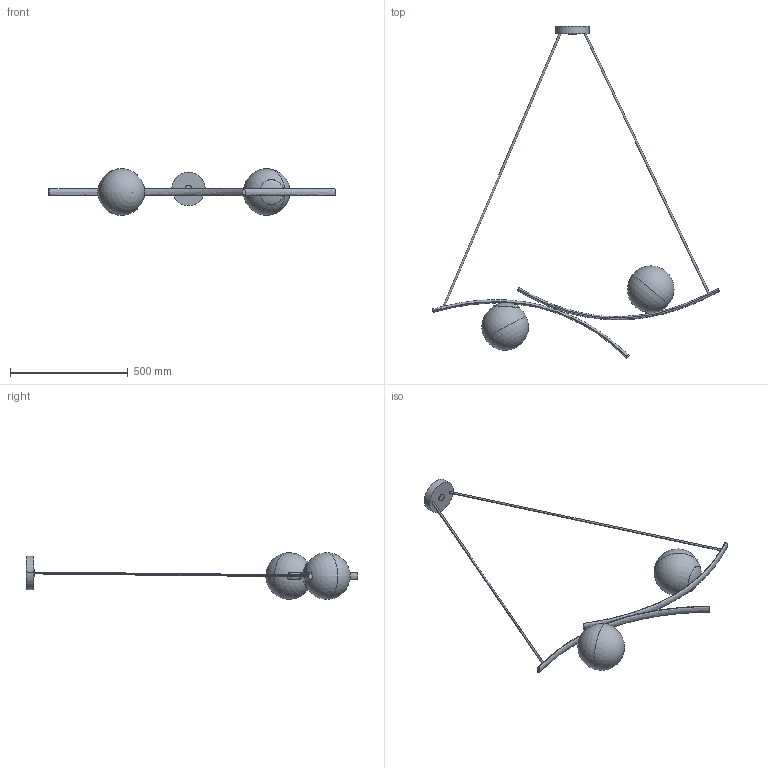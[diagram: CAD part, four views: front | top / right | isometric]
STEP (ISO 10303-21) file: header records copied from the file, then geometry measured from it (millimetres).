
FILE_DESCRIPTION (( 'STEP AP203' ), '1' );
FILE_NAME ('VID01_Vida.STEP', '2024-08-06T08:35:02', ( '' ), ( '' ), 'SwSTEP 2.0', 'SolidWorks 2022', '' );
FILE_SCHEMA (( 'CONFIG_CONTROL_DESIGN' ));
Length unit declared in the file: millimetre
Products named in the file (1): VID01_Vida
Bounding box: 1220.62 x 1412.42 x 198.8 mm (x, y, z)
Volume: 9539206.3 mm3; surface area: 488942.9 mm2
Topology: 1 solids, 1 shells, 34 faces, 78 edges, 51 vertices
Faces by surface type: cylinder 8, sphere 8, plane 8, bspline 6, cone 4
Entity records: 2290 total; most frequent: CARTESIAN_POINT 1567, ORIENTED_EDGE 138, DIRECTION 118, EDGE_CURVE 69, AXIS2_PLACEMENT_3D 53, VERTEX_POINT 46, EDGE_LOOP 45, FACE_OUTER_BOUND 34
